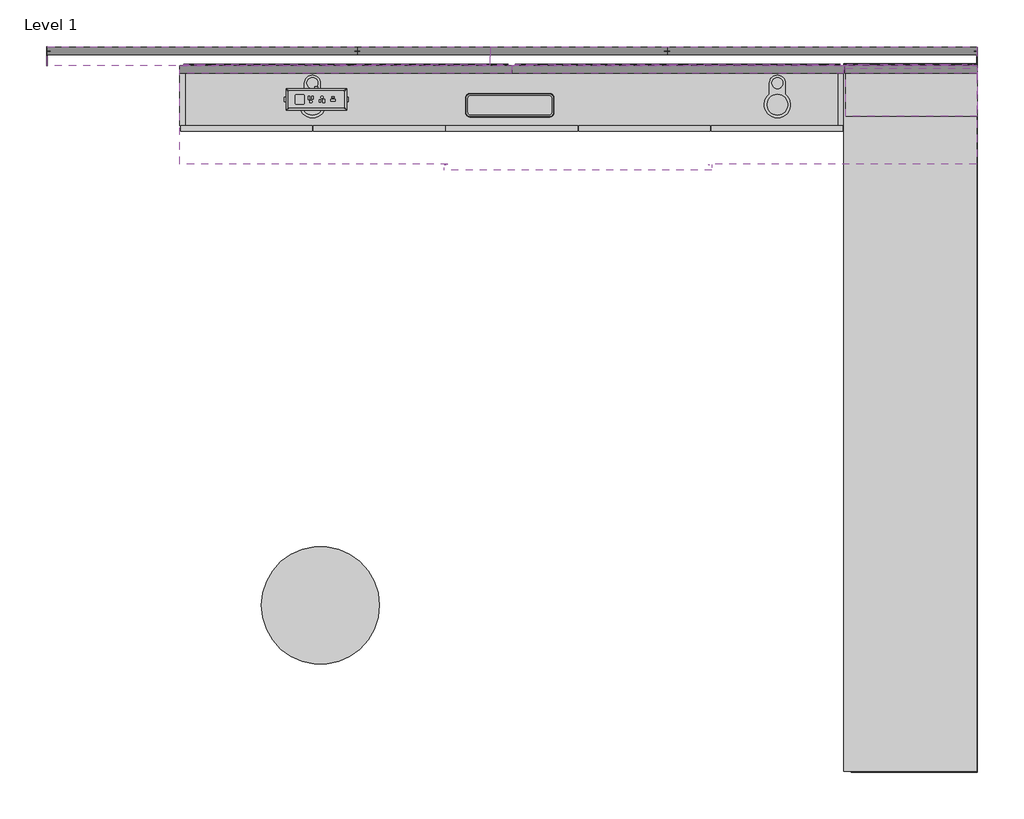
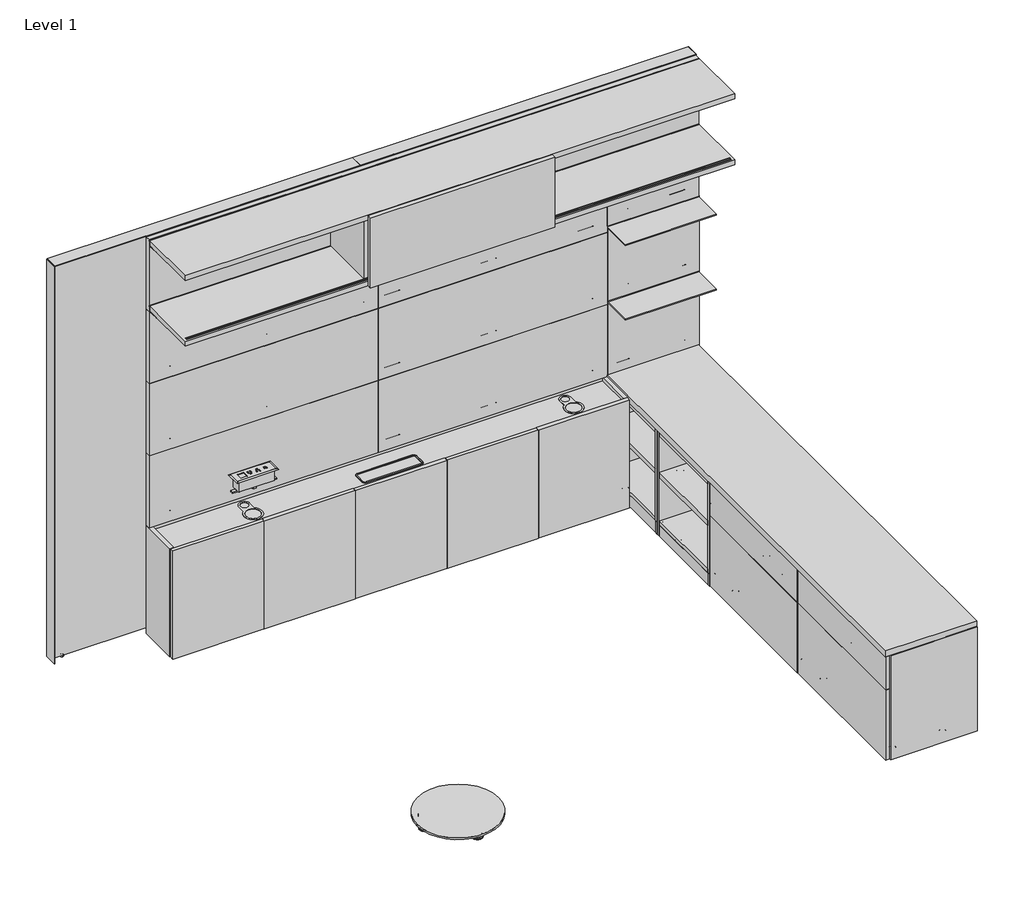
# One storey, incomplete: 27 furniture elements.
"""IFC4 building model written with IfcOpenShell, lengths in millimetres."""

from ifc_helpers import new_model, si_unit, origin, place, context, project, spatial, transform, mapped, element, save
from components import furniture_9cbfd142, furniture_d5114e64, furniture_d10a9d43, furniture_32e424e9, furniture_26ee6ef7, furniture_c91bc20d, furniture_9cfcc0bf, furniture_c3ae807a, furniture_72f0afe8, furniture_a181dc65, furniture_9a9e18b9, furniture_67171f7c, furniture_2c6be22b, disc_foot_0842a4c7, in_surface_33791ff7

model = new_model("IFC4")

# Units and contexts
model_context = context("Model", 3, world=origin())
ifc_project = project(units=[si_unit("LENGTHUNIT", "METRE", prefix="MILLI")], contexts=[model_context])

# Site, building, storey
site = spatial("IfcSite", under=ifc_project)
building = spatial("IfcBuilding", under=site)
storey = spatial("IfcBuildingStorey", under=building, Name="Level 1", Elevation=0.0)

# Furniture
placement = place(None, origin())
furniture_shape = furniture_9cbfd142(model_context)
element("IfcFurniture", 1, ObjectType="Geiger_GeigerOneCasegoods_CredenzaTopDeskHeightPlain : Veneer 96Wx 18Dx 1.25H", at=placement, inside=storey, context=model_context, shape_type="MappedRepresentation", body=[
    mapped(furniture_shape, transform((2417.6446038, 723.6024874, 561.7), x_axis=(0.0, 1.0, 0.0), y_axis=(-1.0, 0.0, 0.0), z_axis=(0.0, 0.0, 1.0))),
])
furniture_2_shape = furniture_d5114e64(model_context)
element("IfcFurniture", 2, ObjectType="Geiger_GeigerOneCasegoods_LowStorageOpen : Vertical Veneer 18Wx 18Dx21.75H", at=placement, inside=storey, context=model_context, shape_type="MappedRepresentation", body=[
    mapped(furniture_2_shape, transform((2877.3846038, 2699.7224874, 0.0), x_axis=(0.0, -1.0, 0.0), y_axis=(1.0, 0.0, 0.0), z_axis=(0.0, 0.0, 1.0))),
])
element("IfcFurniture", 3, ObjectType="Geiger_GeigerOneCasegoods_LowStorageOpen : Vertical Veneer 18Wx 18Dx21.75H", at=placement, inside=storey, context=model_context, shape_type="MappedRepresentation", body=[
    mapped(furniture_2_shape, transform((2877.3846038, 3154.3824874, 0.0), x_axis=(0.0, -1.0, 0.0), y_axis=(1.0, 0.0, 0.0), z_axis=(0.0, 0.0, 1.0))),
])
furniture_3_shape = furniture_d10a9d43(model_context)
element("IfcFurniture", 4, ObjectType="Geiger_GeigerOneCasegoods_LowStorage1Box1File : Vertical Veneer 30Wx18Dx21.75H", at=placement, inside=storey, context=model_context, shape_type="MappedRepresentation", body=[
    mapped(furniture_3_shape, transform((2877.3846038, 2245.0624874, 0.0), x_axis=(0.0, -1.0, 0.0), y_axis=(1.0, 0.0, 0.0), z_axis=(0.0, 0.0, 1.0))),
])
element("IfcFurniture", 5, ObjectType="Geiger_GeigerOneCasegoods_LowStorage1Box1File : Vertical Veneer 30Wx18Dx21.75H", at=placement, inside=storey, context=model_context, shape_type="MappedRepresentation", body=[
    mapped(furniture_3_shape, transform((2877.3846038, 1483.0624874, 0.0), x_axis=(0.0, -1.0, 0.0), y_axis=(1.0, 0.0, 0.0), z_axis=(0.0, 0.0, 1.0))),
])
furniture_4_shape = furniture_32e424e9(model_context)
element("IfcFurniture", 6, ObjectType="Geiger_GeigerOneCasegoods_UtilityCabinetForUseWithLDeskAccepts2Legs : Vertical Veneer 90Wx 8.875Dx 22.5H", at=placement, inside=storey, context=model_context, shape_type="MappedRepresentation", body=[
    mapped(furniture_4_shape, transform((131.6446038, 3154.3824874, 0.0), x_axis=(1.0, 0.0, 0.0), y_axis=(0.0, 1.0, 0.0), z_axis=(0.0, 0.0, 1.0))),
])
furniture_5_shape = furniture_26ee6ef7(model_context)
element("IfcFurniture", 7, ObjectType="Geiger_GeigerOneCasegoods_OverheadStorageDoubleShelfWithSlidingDoor : Veneer Shelves Painted Back 108Wx 14.125Dx 14.875H", at=placement, inside=storey, context=model_context, shape_type="MappedRepresentation", body=[
    mapped(furniture_5_shape, transform((131.6446038, 3160.790281, 1728.7), x_axis=(1.0, 0.0, 0.0), y_axis=(0.0, 1.0, 0.0), z_axis=(0.0, 0.0, 1.0))),
])
furniture_6_shape = furniture_c91bc20d(model_context)
element("IfcFurniture", 8, ObjectType="Geiger_GeigerOneCasegoods_WallTileAcceptsTileAboveFabric : Fabric 45Wx 1.25Dx 15H", at=placement, inside=storey, context=model_context, shape_type="MappedRepresentation", body=[
    mapped(furniture_6_shape, transform((1274.6446038, 3160.7832874, 965.1906), x_axis=(1.0, 0.0, 0.0), y_axis=(0.0, 1.0, 0.0), z_axis=(0.0, 0.0, 1.0))),
])
element("IfcFurniture", 9, ObjectType="Geiger_GeigerOneCasegoods_WallTileAcceptsTileAboveFabric : Fabric 45Wx 1.25Dx 15H", at=placement, inside=storey, context=model_context, shape_type="MappedRepresentation", body=[
    mapped(furniture_6_shape, transform((131.6446038, 3160.7832874, 585.1906), x_axis=(1.0, 0.0, 0.0), y_axis=(0.0, 1.0, 0.0), z_axis=(0.0, 0.0, 1.0))),
])
element("IfcFurniture", 10, ObjectType="Geiger_GeigerOneCasegoods_WallTileAcceptsTileAboveFabric : Fabric 45Wx 1.25Dx 15H", at=placement, inside=storey, context=model_context, shape_type="MappedRepresentation", body=[
    mapped(furniture_6_shape, transform((131.6446038, 3160.7832874, 965.1906), x_axis=(1.0, 0.0, 0.0), y_axis=(0.0, 1.0, 0.0), z_axis=(0.0, 0.0, 1.0))),
])
element("IfcFurniture", 11, ObjectType="Geiger_GeigerOneCasegoods_WallTileAcceptsTileAboveFabric : Fabric 45Wx 1.25Dx 15H", at=placement, inside=storey, context=model_context, shape_type="MappedRepresentation", body=[
    mapped(furniture_6_shape, transform((131.6446038, 3160.7832874, 1347.5782), x_axis=(1.0, 0.0, 0.0), y_axis=(0.0, 1.0, 0.0), z_axis=(0.0, 0.0, 1.0))),
])
element("IfcFurniture", 12, ObjectType="Geiger_GeigerOneCasegoods_WallTileAcceptsTileAboveFabric : Fabric 45Wx 1.25Dx 15H", at=placement, inside=storey, context=model_context, shape_type="MappedRepresentation", body=[
    mapped(furniture_6_shape, transform((1274.6446038, 3160.7832874, 585.1906), x_axis=(1.0, 0.0, 0.0), y_axis=(0.0, 1.0, 0.0), z_axis=(0.0, 0.0, 1.0))),
])
element("IfcFurniture", 13, ObjectType="Geiger_GeigerOneCasegoods_WallTileAcceptsTileAboveFabric : Fabric 45Wx 1.25Dx 15H", at=placement, inside=storey, context=model_context, shape_type="MappedRepresentation", body=[
    mapped(furniture_6_shape, transform((1274.6446038, 3160.7832874, 1347.5782), x_axis=(1.0, 0.0, 0.0), y_axis=(0.0, 1.0, 0.0), z_axis=(0.0, 0.0, 1.0))),
])
furniture_7_shape = furniture_9cfcc0bf(model_context)
element("IfcFurniture", 14, ObjectType="Geiger_GeigerOneCasegoods_WallTileAcceptsTileAboveFabric : Fabric 18Wx 1.25Dx 15H", at=placement, inside=storey, context=model_context, shape_type="MappedRepresentation", body=[
    mapped(furniture_7_shape, transform((2417.6446038, 3160.7832874, 1379.3282), x_axis=(1.0, 0.0, 0.0), y_axis=(0.0, 1.0, 0.0), z_axis=(0.0, 0.0, 1.0))),
])
furniture_8_shape = furniture_c3ae807a(model_context)
element("IfcFurniture", 15, ObjectType="Geiger_GeigerOneCasegoods_WallTileAcceptsShelfandTileAboveFabr : 18Wx 1.25Dx 15H", at=placement, inside=storey, context=model_context, shape_type="MappedRepresentation", body=[
    mapped(furniture_8_shape, transform((2420.8196038, 3160.7832874, 585.1906), x_axis=(1.0, 0.0, 0.0), y_axis=(0.0, 1.0, 0.0), z_axis=(0.0, 0.0, 1.0))),
])
element("IfcFurniture", 16, ObjectType="Geiger_GeigerOneCasegoods_WallTileAcceptsShelfandTileAboveFabr : 18Wx 1.25Dx 15H", at=placement, inside=storey, context=model_context, shape_type="MappedRepresentation", body=[
    mapped(furniture_8_shape, transform((2420.8196038, 3160.7832874, 982.1926), x_axis=(1.0, 0.0, 0.0), y_axis=(0.0, 1.0, 0.0), z_axis=(0.0, 0.0, 1.0))),
])
furniture_9_shape = furniture_72f0afe8(model_context)
element("IfcFurniture", 17, ObjectType="Geiger_GeigerOneCasegoods_WallTopTrimSingleSidedWall : 60Wx2.625Dx0.125H", at=placement, inside=storey, context=model_context, shape_type="MappedRepresentation", body=[
    mapped(furniture_9_shape, transform((-324.3553962, 3187.9824874, 2108.708), x_axis=(1.0, 0.0, 0.0), y_axis=(0.0, 1.0, 0.0), z_axis=(0.0, 0.0, 1.0))),
])
furniture_10_shape = furniture_a181dc65(model_context)
element("IfcFurniture", 18, ObjectType="Geiger_GeigerOneCasegoods_WallTopTrimSingleSidedWall : 66Wx2.625Dx0.125H", at=placement, inside=storey, context=model_context, shape_type="MappedRepresentation", body=[
    mapped(furniture_10_shape, transform((1199.6446038, 3187.9824874, 2108.708), x_axis=(1.0, 0.0, 0.0), y_axis=(0.0, 1.0, 0.0), z_axis=(0.0, 0.0, 1.0))),
])
furniture_11_shape = furniture_9a9e18b9(model_context)
element("IfcFurniture", 19, ObjectType="Geiger_GeigerOneCasegoods_WallEndTrim : SingleSided 2.625Wx 0.125Dx 82.625H", at=placement, inside=storey, context=model_context, shape_type="MappedRepresentation", body=[
    mapped(furniture_11_shape, transform((2874.8446038, 3186.0793274, 12.7), x_axis=(1.0, 0.0, 0.0), y_axis=(0.0, 1.0, 0.0), z_axis=(0.0, 0.0, 1.0))),
])
element("IfcFurniture", 20, ObjectType="Geiger_GeigerOneCasegoods_WallEndTrim : SingleSided 2.625Wx 0.125Dx 82.625H", at=placement, inside=storey, context=model_context, shape_type="MappedRepresentation", body=[
    mapped(furniture_11_shape, transform((-327.5303962, 3187.7199874, 12.7), x_axis=(1.0, 0.0, 0.0), y_axis=(0.0, 1.0, 0.0), z_axis=(0.0, 0.0, 1.0))),
])
furniture_12_shape = furniture_67171f7c(model_context)
element("IfcFurniture", 21, ObjectType="Geiger_GeigerOneCasegoods_WallFrameStandardApplication : 42Wx1Dx82.5H", at=placement, inside=storey, context=model_context, shape_type="MappedRepresentation", body=[
    mapped(furniture_12_shape, transform((-324.3553962, 3218.4824874, 0.0), x_axis=(1.0, 0.0, 0.0), y_axis=(0.0, 1.0, 0.0), z_axis=(0.0, 0.0, 1.0))),
])
element("IfcFurniture", 22, ObjectType="Geiger_GeigerOneCasegoods_WallFrameStandardApplication : 42Wx1Dx82.5H", at=placement, inside=storey, context=model_context, shape_type="MappedRepresentation", body=[
    mapped(furniture_12_shape, transform((742.4446038, 3218.4824874, 0.0), x_axis=(1.0, 0.0, 0.0), y_axis=(0.0, 1.0, 0.0), z_axis=(0.0, 0.0, 1.0))),
])
element("IfcFurniture", 23, ObjectType="Geiger_GeigerOneCasegoods_WallFrameStandardApplication : 42Wx1Dx82.5H", at=placement, inside=storey, context=model_context, shape_type="MappedRepresentation", body=[
    mapped(furniture_12_shape, transform((1809.2446038, 3218.4824874, 0.0), x_axis=(1.0, 0.0, 0.0), y_axis=(0.0, 1.0, 0.0), z_axis=(0.0, 0.0, 1.0))),
])
furniture_13_shape = furniture_2c6be22b(model_context)
element("IfcFurniture", 24, ObjectType="Geiger_GeigerOneCasegoods_Casegoods_AccessoryShelf : 17.875Wx 6.5Dx 0.375H", at=placement, inside=storey, context=model_context, shape_type="MappedRepresentation", body=[
    mapped(furniture_13_shape, transform((2423.7106211, 3145.5415952, 1365.5802), x_axis=(1.0, 0.0, 0.0), y_axis=(0.0, 1.0, 0.0), z_axis=(0.0, 0.0, 1.0))),
])
element("IfcFurniture", 25, ObjectType="Geiger_GeigerOneCasegoods_Casegoods_AccessoryShelf : 17.875Wx 6.5Dx 0.375H", at=placement, inside=storey, context=model_context, shape_type="MappedRepresentation", body=[
    mapped(furniture_13_shape, transform((2423.7106211, 3145.5415952, 970.3020059), x_axis=(1.0, 0.0, 0.0), y_axis=(0.0, 1.0, 0.0), z_axis=(0.0, 0.0, 1.0))),
])
disc_foot_shape = disc_foot_0842a4c7(model_context)
element("IfcFurniture", 26, ObjectType="Geiger_GeigerOneCasegoods_LegSupport : Disc Foot", at=placement, inside=storey, context=model_context, shape_type="MappedRepresentation", body=[
    mapped(disc_foot_shape, transform((615.5683285, 1295.9024874, 0.0), x_axis=(1.0, 0.0, 0.0), y_axis=(0.0, 1.0, 0.0), z_axis=(0.0, 0.0, 1.0))),
])
in_surface_shape = in_surface_33791ff7(model_context)
element("IfcFurniture", 27, ObjectType="Geiger_GeigerOneCasegoods_PowerComponent2PowerOutlets1USBA1USBC : In Surface", at=placement, inside=storey, context=model_context, shape_type="MappedRepresentation", body=[
    mapped(in_surface_shape, transform((601.5740925, 3038.9508217, 769.5946), x_axis=(1.0, 0.0, 0.0), y_axis=(0.0, 1.0, 0.0), z_axis=(0.0, 0.0, 1.0))),
])

save(model, "model.ifc")
